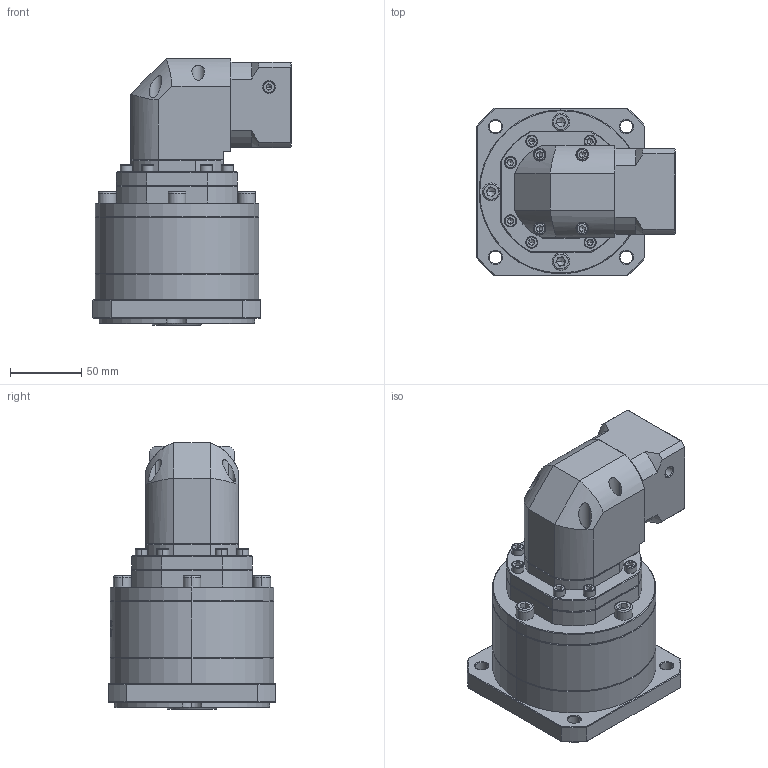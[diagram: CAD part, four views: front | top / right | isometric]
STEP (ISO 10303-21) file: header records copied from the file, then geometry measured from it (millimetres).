
FILE_DESCRIPTION (( 'STEP AP214' ), '1' );
FILE_NAME ('ZFR120A-K25-L3-P2-11-50-70-M5.step', '2023-08-27T09:50:54', ( '' ), ( '' ), 'SwSTEP 2.0', 'SolidWorks 2016', '' );
FILE_SCHEMA (( 'AUTOMOTIVE_DESIGN' ));
Length unit declared in the file: millimetre
Products named in the file (1): ZFR120A-K25-L3-P2-11-50-70-M5
Bounding box: 139.2 x 118 x 187.5 mm (x, y, z)
Volume: 1422940.3 mm3; surface area: 137494.1 mm2
Topology: 6 solids, 6 shells, 2379 faces, 6343 edges, 4080 vertices
Faces by surface type: plane 1165, cylinder 429, bspline 426, cone 339, torus 20
Entity records: 123995 total; most frequent: CARTESIAN_POINT 43676, ORIENTED_EDGE 12582, DIRECTION 9484, EDGE_CURVE 6291, VERTEX_POINT 4080, LINE 3366, VECTOR 3366, AXIS2_PLACEMENT_3D 3059
